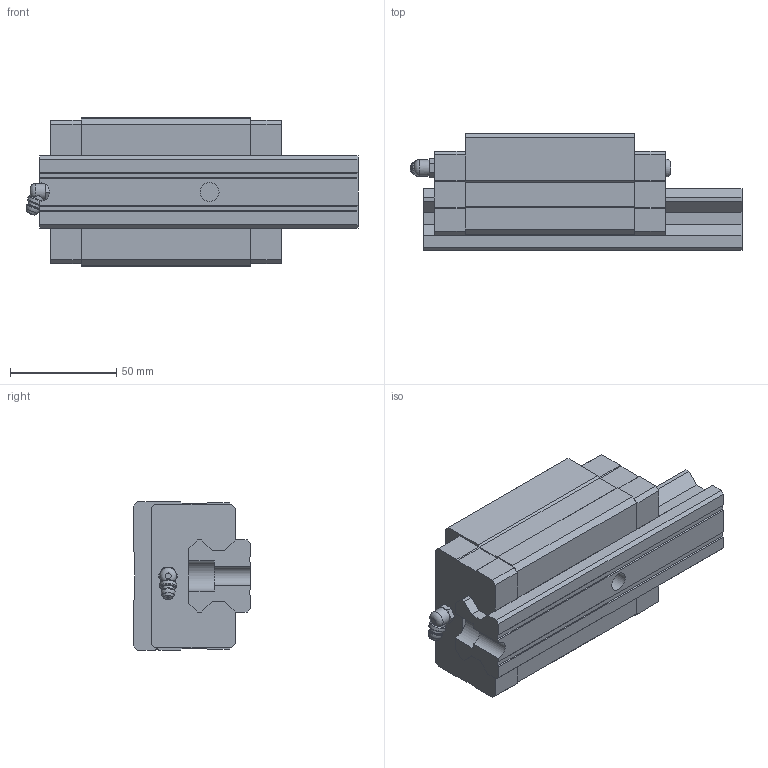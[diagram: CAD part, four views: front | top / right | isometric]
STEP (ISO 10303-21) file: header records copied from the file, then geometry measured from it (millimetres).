
FILE_DESCRIPTION(/* description */ ('STEP AP214'),/* implementation_level */ '2;1');
FILE_NAME(/* name */ 'LSH35HN1X150S0AN-M6',/* time_stamp */ '2025-03-14T18:29:47+01:00',/* author */ ('License CC BY-ND 4.0'),/* organization */ ('CADENAS'),/* preprocessor_version */ 'ST-DEVELOPER v19.3',/* originating_system */ 'PARTsolutions',/* authorisation */ ' ');
FILE_SCHEMA (('AUTOMOTIVE_DESIGN {1 0 10303 214 3 1 1}'));
Length unit declared in the file: millimetre
Products named in the file (4): LSH35HN1X150S0AN-M6; LSH35HN1X150S0AN-M6_d; LSH35RLX150-S0-N-D; LSH35BK-HN-N-N-M6
Assembly tree (3 placements, depth 2):
  LSH35HN1X150S0AN-M6
    LSH35HN1X150S0AN-M6_d
    LSH35RLX150-S0-N-D
    LSH35BK-HN-N-N-M6
Bounding box: 156.56 x 55 x 70 mm (x, y, z)
Volume: 395279.7 mm3; surface area: 58669.8 mm2
Topology: 2 solids, 2 shells, 158 faces, 420 edges, 276 vertices
Faces by surface type: plane 129, cylinder 15, cone 8, torus 5, sphere 1
Full cylindrical faces by diameter (mm): 5.5 x1, 6.6 x1, 6.647 x4, 7.85 x1, 8 x1, 9 x1, 14.2 x1
Entity records: 4784 total; most frequent: CARTESIAN_POINT 878, ORIENTED_EDGE 780, DIRECTION 742, EDGE_CURVE 390, LINE 338, VECTOR 338, VERTEX_POINT 269, AXIS2_PLACEMENT_3D 202
